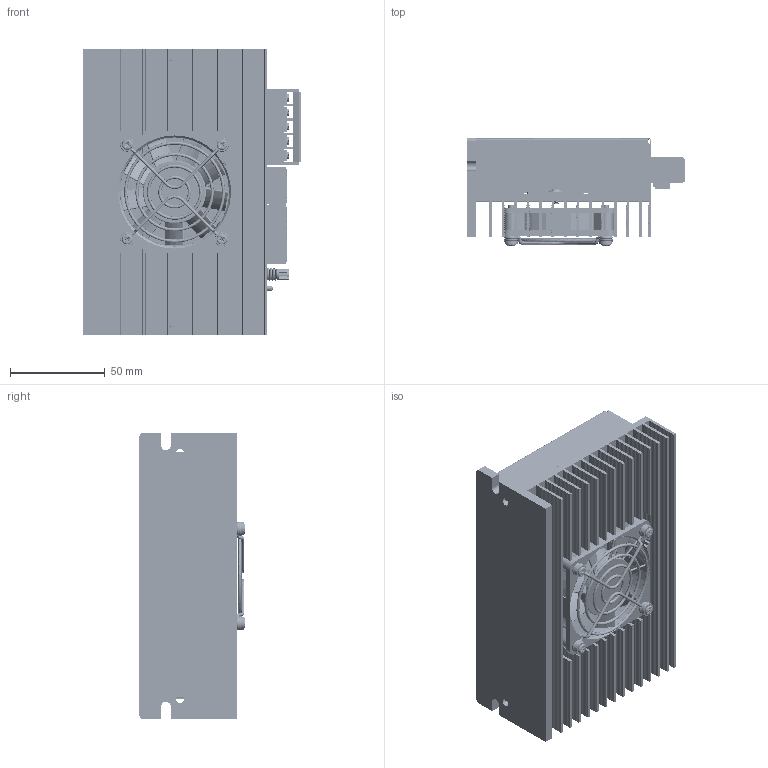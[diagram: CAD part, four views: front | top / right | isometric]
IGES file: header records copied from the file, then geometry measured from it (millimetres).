
Start section: SolidWorks IGES file using analytic representation for surfaces
Global section: file name: C:\Users\kawak\Desktop\ドライバー\MLD-075-ST 1108.IGS; native system: SolidWorks 2016; preprocessor: SolidWorks 2016; author: kawak; date: 190624.094822; units: millimetre
Bounding box: 115.35 x 56.54 x 151 mm (x, y, z)
Surface area: 192761.9 mm2 (no closed solid volume)
Topology: 0 solids, 0 shells, 3919 faces, 35137 edges, 35126 vertices
Faces by surface type: bspline 2049, revolution 1870
